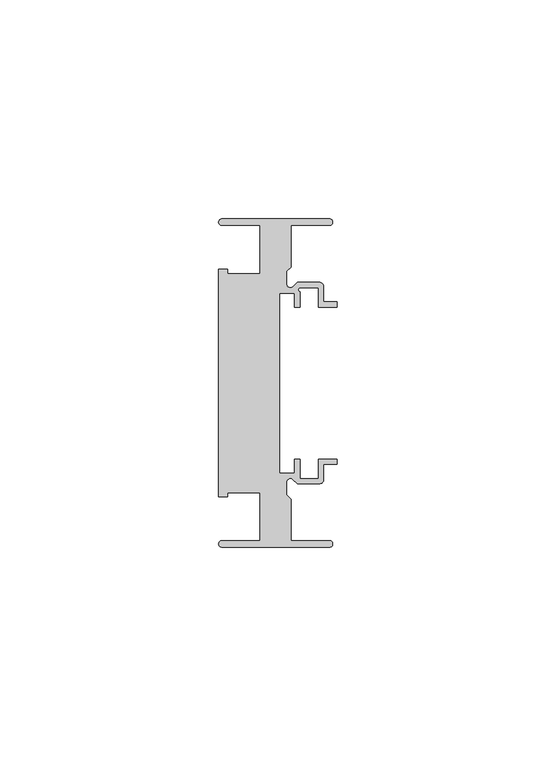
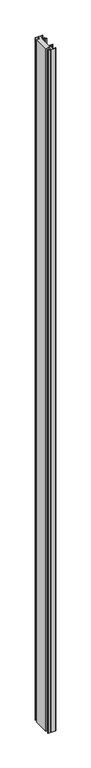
"""IFC4 building model written with IfcOpenShell, lengths in millimetres: member geometry, Прямоугольный импост : 7-AMG-2-Профиль 26Х75 Низ Л."""

from ifc_helpers import new_model, si_unit, point, frame, frame_2d, origin, place, context, project, spatial, polyline, circle_curve, trimmed, segment, composite_curve, outline, extrude, source, transform, mapped, element, save


def member_b95fb32e(model_context):
    return source(origin(), model_context, "Body", "SweptSolid", [
        extrude(outline(composite_curve([segment(polyline([(-1.7, -37.5), (-26.25, -37.5)]), True, "CONTINUOUS"), segment(trimmed(circle_curve(frame_2d((-26.25, -36.75)), 0.75), [point((-26.25, -37.5))], [point((-26.25, -36.0))], False, "CARTESIAN"), True, "CONTINUOUS"), segment(polyline([(-26.25, -36.0), (-17.5, -36.0), (-17.5, -25.0), (-24.9359877, -25.0), (-24.9359877, -26.0), (-27.0, -26.0), (-27.0, 26.0), (-24.9359877, 26.0), (-24.9359877, 25.0), (-17.5, 25.0), (-17.5, 36.0), (-26.25, 36.0)]), True, "CONTINUOUS"), segment(trimmed(circle_curve(frame_2d((-26.25, 36.75)), 0.75), [point((-26.25, 36.0))], [point((-26.25, 37.5))], False, "CARTESIAN"), True, "CONTINUOUS"), segment(polyline([(-26.25, 37.5), (-1.7, 37.5)]), True, "CONTINUOUS"), segment(trimmed(circle_curve(frame_2d((-1.7, 36.75)), 0.75), [point((-1.7, 37.5))], [point((-1.7, 36.0))], False, "CARTESIAN"), True, "CONTINUOUS"), segment(polyline([(-1.7, 36.0), (-10.5, 36.0), (-10.5, 26.5029437), (-11.5, 25.5029437), (-11.5, 22.6727922)]), True, "CONTINUOUS"), segment(trimmed(circle_curve(frame_2d((-10.6, 22.6727922)), 0.9), [point((-11.5, 22.6727922))], [point((-9.9636039, 22.0363961))], True, "CARTESIAN"), True, "CONTINUOUS"), segment(polyline([(-9.9636039, 22.0363961), (-9.0, 23.0), (-4.0, 23.0)]), True, "CONTINUOUS"), segment(trimmed(circle_curve(frame_2d((-4.0, 22.0)), 1.0), [point((-4.0, 23.0))], [point((-3.0, 22.0))], False, "CARTESIAN"), True, "CONTINUOUS"), segment(polyline([(-3.0, 22.0), (-3.0, 18.55), (0.0, 18.55), (0.0, 17.35), (-4.2, 17.35), (-4.2, 21.8), (-8.5029437, 21.8)]), True, "CONTINUOUS"), segment(trimmed(circle_curve(frame_2d((-8.3343131, 21.3314262)), 0.4979937), [point((-8.5029437, 21.8))], [point((-8.45, 20.8470563))], True, "CARTESIAN"), True, "CONTINUOUS"), segment(polyline([(-8.45, 20.8470563), (-8.45, 17.35), (-9.65, 17.35), (-9.65, 20.55), (-13.15, 20.55), (-13.15, -20.55), (-9.65, -20.55), (-9.65, -17.35), (-8.45, -17.35), (-8.45, -21.8), (-4.2, -21.8), (-4.2, -17.35), (0.0, -17.35), (0.0, -18.55), (-3.0, -18.55), (-3.0, -22.0)]), True, "CONTINUOUS"), segment(trimmed(circle_curve(frame_2d((-4.0, -22.0)), 1.0), [point((-3.0, -22.0))], [point((-4.0, -23.0))], False, "CARTESIAN"), True, "CONTINUOUS"), segment(polyline([(-4.0, -23.0), (-9.0, -23.0), (-9.9636039, -22.0363961)]), True, "CONTINUOUS"), segment(trimmed(circle_curve(frame_2d((-10.6, -22.6727922)), 0.9), [point((-9.9636039, -22.0363961))], [point((-11.5, -22.6727922))], True, "CARTESIAN"), True, "CONTINUOUS"), segment(polyline([(-11.5, -22.6727922), (-11.5, -25.5029437), (-10.5, -26.5029437), (-10.5, -36.0), (-1.7, -36.0)]), True, "CONTINUOUS"), segment(trimmed(circle_curve(frame_2d((-1.7, -36.75)), 0.75), [point((-1.7, -36.0))], [point((-1.7, -37.5))], False, "CARTESIAN"), True, "CONTINUOUS")], self_intersect=False)), frame((0.0, 0.0, -2400.0), z_axis=(0.0, 0.0, 1.0), x_axis=(1.0, 0.0, 0.0)), (0.0, 0.0, 1.0), 2400.0),
    ])


if __name__ == "__main__":
    model = new_model("IFC4")
    model_context = context("Model", 3, world=origin())
    ifc_project = project(units=[si_unit("LENGTHUNIT", "METRE", prefix="MILLI")], contexts=[model_context])
    site = spatial("IfcSite", under=ifc_project)
    building = spatial("IfcBuilding", under=site)
    placement = place(None, origin())
    member_shape = member_b95fb32e(model_context)
    element("IfcMember", 1, ObjectType="Прямоугольный импост : 7-AMG-2-Профиль 26Х75 Низ Л", at=placement, inside=building, context=model_context, shape_type="MappedRepresentation", body=[
        mapped(member_shape, transform((0.0, 0.0, 0.0), x_axis=(1.0, 0.0, 0.0), y_axis=(0.0, 1.0, 0.0), z_axis=(0.0, 0.0, 1.0))),
    ])
    save(model, "model.ifc")
